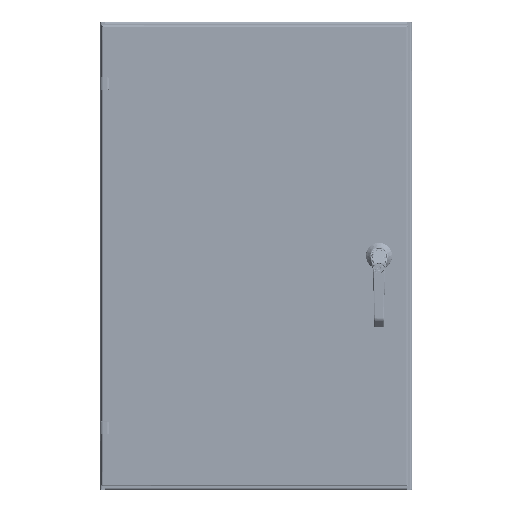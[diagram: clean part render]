
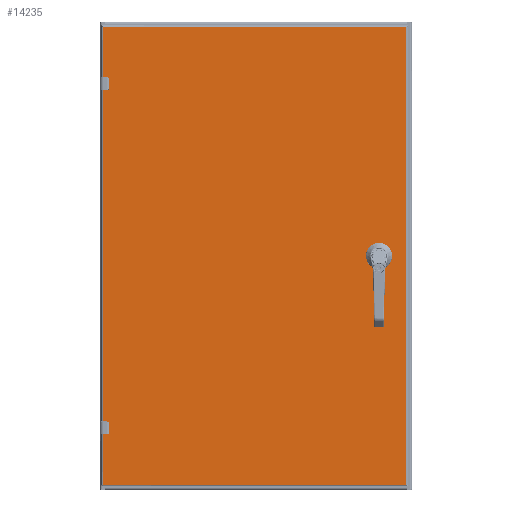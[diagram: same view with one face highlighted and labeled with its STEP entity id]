
A CAD part, top view. The second image highlights one B-rep face of the part: STEP entity #14235.
In plain terms, the highlighted planar face has unit normal (0, 0, 1).
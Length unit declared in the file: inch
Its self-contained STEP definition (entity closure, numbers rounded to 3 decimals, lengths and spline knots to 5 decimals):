
#11370=CARTESIAN_POINT('',(9.5625,-1.094,0.));
#11371=DIRECTION('',(0.,0.,1.));
#11372=DIRECTION('',(-1.,0.,0.));
#11373=AXIS2_PLACEMENT_3D('',#11370,#11371,#11372);
#11378=CARTESIAN_POINT('',(9.5625,-1.094,0.));
#11379=DIRECTION('',(0.,0.,1.));
#11380=DIRECTION('',(1.,0.,0.));
#11381=AXIS2_PLACEMENT_3D('',#11378,#11379,#11380);
#11386=DIRECTION('',(1.,0.,0.));
#11387=VECTOR('',#11386,0.39715);
#11388=CARTESIAN_POINT('',(9.36392,0.396,0.));
#11389=LINE('',#11388,#11387);
#11393=CARTESIAN_POINT('',(9.5625,0.,0.));
#11394=DIRECTION('',(0.,0.,1.));
#11395=DIRECTION('',(-0.448,0.894,0.));
#11396=AXIS2_PLACEMENT_3D('',#11393,#11394,#11395);
#11401=DIRECTION('',(0.,1.,0.));
#11402=VECTOR('',#11401,0.39715);
#11403=CARTESIAN_POINT('',(9.1665,-0.19858,0.));
#11404=LINE('',#11403,#11402);
#11408=CARTESIAN_POINT('',(9.5625,0.,0.));
#11409=DIRECTION('',(0.,0.,1.));
#11410=DIRECTION('',(-0.894,-0.448,0.));
#11411=AXIS2_PLACEMENT_3D('',#11408,#11409,#11410);
#11416=DIRECTION('',(-1.,0.,0.));
#11417=VECTOR('',#11416,0.39715);
#11418=CARTESIAN_POINT('',(9.76108,-0.396,0.));
#11419=LINE('',#11418,#11417);
#11423=CARTESIAN_POINT('',(9.5625,0.,0.));
#11424=DIRECTION('',(0.,0.,1.));
#11425=DIRECTION('',(0.448,-0.894,0.));
#11426=AXIS2_PLACEMENT_3D('',#11423,#11424,#11425);
#11431=DIRECTION('',(0.,-1.,0.));
#11432=VECTOR('',#11431,0.39715);
#11433=CARTESIAN_POINT('',(9.9585,0.19858,0.));
#11434=LINE('',#11433,#11432);
#11438=CARTESIAN_POINT('',(9.5625,0.,0.));
#11439=DIRECTION('',(0.,0.,1.));
#11440=DIRECTION('',(0.894,0.448,0.));
#11441=AXIS2_PLACEMENT_3D('',#11438,#11439,#11440);
#11446=DIRECTION('',(1.,0.,0.));
#11447=VECTOR('',#11446,0.339);
#11448=CARTESIAN_POINT('',(-11.6675,-13.595,0.));
#11449=LINE('',#11448,#11447);
#11453=DIRECTION('',(0.,-1.,0.));
#11454=VECTOR('',#11453,0.63);
#11455=CARTESIAN_POINT('',(-11.2985,-12.935,0.));
#11456=LINE('',#11455,#11454);
#11460=DIRECTION('',(1.,0.,0.));
#11461=VECTOR('',#11460,0.339);
#11462=CARTESIAN_POINT('',(-11.6675,-12.905,0.));
#11463=LINE('',#11462,#11461);
#11467=DIRECTION('',(1.,0.,0.));
#11468=VECTOR('',#11467,0.339);
#11469=CARTESIAN_POINT('',(-11.6675,12.905,0.));
#11470=LINE('',#11469,#11468);
#11474=DIRECTION('',(0.,-1.,0.));
#11475=VECTOR('',#11474,0.63);
#11476=CARTESIAN_POINT('',(-11.2985,13.565,0.));
#11477=LINE('',#11476,#11475);
#11481=DIRECTION('',(1.,0.,0.));
#11482=VECTOR('',#11481,0.339);
#11483=CARTESIAN_POINT('',(-11.6675,13.595,0.));
#11484=LINE('',#11483,#11482);
#11981=DIRECTION('',(0.,1.,0.));
#11982=VECTOR('',#11981,25.81);
#11983=CARTESIAN_POINT('',(-11.6675,-12.905,0.));
#11984=LINE('',#11983,#11982);
#12008=DIRECTION('',(0.,1.,0.));
#12009=VECTOR('',#12008,4.01);
#12010=CARTESIAN_POINT('',(-11.6675,13.595,0.));
#12011=LINE('',#12010,#12009);
#12065=DIRECTION('',(0.,1.,0.));
#12066=VECTOR('',#12065,4.01);
#12067=CARTESIAN_POINT('',(-11.6675,-17.605,0.));
#12068=LINE('',#12067,#12066);
#12728=CARTESIAN_POINT('',(-11.3285,-13.565,0.));
#12729=DIRECTION('',(0.,0.,-1.));
#12730=DIRECTION('',(1.,0.,0.));
#12731=AXIS2_PLACEMENT_3D('',#12728,#12729,#12730);
#12758=CARTESIAN_POINT('',(-11.3285,-12.935,0.));
#12759=DIRECTION('',(0.,0.,-1.));
#12760=DIRECTION('',(0.,1.,0.));
#12761=AXIS2_PLACEMENT_3D('',#12758,#12759,#12760);
#12862=CARTESIAN_POINT('',(-11.3285,13.565,0.));
#12863=DIRECTION('',(0.,0.,-1.));
#12864=DIRECTION('',(0.,1.,0.));
#12865=AXIS2_PLACEMENT_3D('',#12862,#12863,#12864);
#12892=CARTESIAN_POINT('',(-11.3285,12.935,0.));
#12893=DIRECTION('',(0.,0.,-1.));
#12894=DIRECTION('',(1.,0.,0.));
#12895=AXIS2_PLACEMENT_3D('',#12892,#12893,#12894);
#13507=DIRECTION('',(-1.,0.,0.));
#13508=VECTOR('',#13507,23.335);
#13509=CARTESIAN_POINT('',(11.6675,-17.605,0.));
#13510=LINE('',#13509,#13508);
#13559=DIRECTION('',(0.,-1.,0.));
#13560=VECTOR('',#13559,35.21);
#13561=CARTESIAN_POINT('',(11.6675,17.605,0.));
#13562=LINE('',#13561,#13560);
#13702=DIRECTION('',(1.,0.,0.));
#13703=VECTOR('',#13702,23.335);
#13704=CARTESIAN_POINT('',(-11.6675,17.605,0.));
#13705=LINE('',#13704,#13703);
#13796=CARTESIAN_POINT('',(11.6675,17.605,0.));
#13797=CARTESIAN_POINT('',(11.6675,-17.605,0.));
#13798=VERTEX_POINT('',#13796);
#13799=VERTEX_POINT('',#13797);
#13884=CARTESIAN_POINT('',(9.4375,-1.094,0.));
#13885=CARTESIAN_POINT('',(9.6875,-1.094,0.));
#13886=VERTEX_POINT('',#13884);
#13887=VERTEX_POINT('',#13885);
#13888=CARTESIAN_POINT('',(9.36392,0.396,0.));
#13889=CARTESIAN_POINT('',(9.76108,0.396,0.));
#13890=VERTEX_POINT('',#13888);
#13891=VERTEX_POINT('',#13889);
#13892=CARTESIAN_POINT('',(9.9585,0.19858,0.));
#13893=VERTEX_POINT('',#13892);
#13894=CARTESIAN_POINT('',(9.9585,-0.19858,0.));
#13895=VERTEX_POINT('',#13894);
#13896=CARTESIAN_POINT('',(9.76108,-0.396,0.));
#13897=VERTEX_POINT('',#13896);
#13898=CARTESIAN_POINT('',(9.36392,-0.396,0.));
#13899=VERTEX_POINT('',#13898);
#13900=CARTESIAN_POINT('',(9.1665,-0.19858,0.));
#13901=VERTEX_POINT('',#13900);
#13902=CARTESIAN_POINT('',(9.1665,0.19858,0.));
#13903=VERTEX_POINT('',#13902);
#13933=CARTESIAN_POINT('',(-11.6675,17.605,0.));
#13935=VERTEX_POINT('',#13933);
#13940=CARTESIAN_POINT('',(-11.6675,-17.605,0.));
#13942=VERTEX_POINT('',#13940);
#14076=CARTESIAN_POINT('',(-11.6675,12.905,0.));
#14078=VERTEX_POINT('',#14076);
#14080=CARTESIAN_POINT('',(-11.6675,13.595,0.));
#14082=VERTEX_POINT('',#14080);
#14092=CARTESIAN_POINT('',(-11.6675,-13.595,0.));
#14094=VERTEX_POINT('',#14092);
#14096=CARTESIAN_POINT('',(-11.6675,-12.905,0.));
#14098=VERTEX_POINT('',#14096);
#14116=CARTESIAN_POINT('',(-11.2985,12.935,0.));
#14118=VERTEX_POINT('',#14116);
#14120=CARTESIAN_POINT('',(-11.3285,12.905,0.));
#14122=VERTEX_POINT('',#14120);
#14124=CARTESIAN_POINT('',(-11.3285,13.595,0.));
#14126=VERTEX_POINT('',#14124);
#14128=CARTESIAN_POINT('',(-11.2985,13.565,0.));
#14130=VERTEX_POINT('',#14128);
#14140=CARTESIAN_POINT('',(-11.2985,-13.565,0.));
#14142=VERTEX_POINT('',#14140);
#14144=CARTESIAN_POINT('',(-11.3285,-13.595,0.));
#14146=VERTEX_POINT('',#14144);
#14148=CARTESIAN_POINT('',(-11.3285,-12.905,0.));
#14150=VERTEX_POINT('',#14148);
#14152=CARTESIAN_POINT('',(-11.2985,-12.935,0.));
#14154=VERTEX_POINT('',#14152);
#14172=CARTESIAN_POINT('',(0.,0.,0.));
#14173=DIRECTION('',(0.,0.,-1.));
#14174=DIRECTION('',(1.,0.,0.));
#14175=AXIS2_PLACEMENT_3D('',#14172,#14173,#14174);
#14176=PLANE('',#14175);
#14178=ORIENTED_EDGE('',*,*,#14177,.T.);
#14180=ORIENTED_EDGE('',*,*,#14179,.T.);
#14182=ORIENTED_EDGE('',*,*,#14181,.T.);
#14184=ORIENTED_EDGE('',*,*,#14183,.F.);
#14186=ORIENTED_EDGE('',*,*,#14185,.F.);
#14188=ORIENTED_EDGE('',*,*,#14187,.F.);
#14190=ORIENTED_EDGE('',*,*,#14189,.F.);
#14192=ORIENTED_EDGE('',*,*,#14191,.T.);
#14194=ORIENTED_EDGE('',*,*,#14193,.T.);
#14196=ORIENTED_EDGE('',*,*,#14195,.F.);
#14198=ORIENTED_EDGE('',*,*,#14197,.F.);
#14200=ORIENTED_EDGE('',*,*,#14199,.F.);
#14202=ORIENTED_EDGE('',*,*,#14201,.F.);
#14204=ORIENTED_EDGE('',*,*,#14203,.T.);
#14206=ORIENTED_EDGE('',*,*,#14205,.T.);
#14208=ORIENTED_EDGE('',*,*,#14207,.T.);
#14209=EDGE_LOOP('',(#14178,#14180,#14182,#14184,#14186,#14188,#14190,#14192,
#14194,#14196,#14198,#14200,#14202,#14204,#14206,#14208));
#14210=FACE_OUTER_BOUND('',#14209,.F.);
#14212=ORIENTED_EDGE('',*,*,#14211,.F.);
#14214=ORIENTED_EDGE('',*,*,#14213,.T.);
#14216=ORIENTED_EDGE('',*,*,#14215,.F.);
#14218=ORIENTED_EDGE('',*,*,#14217,.T.);
#14220=ORIENTED_EDGE('',*,*,#14219,.F.);
#14222=ORIENTED_EDGE('',*,*,#14221,.T.);
#14224=ORIENTED_EDGE('',*,*,#14223,.F.);
#14226=ORIENTED_EDGE('',*,*,#14225,.T.);
#14227=EDGE_LOOP('',(#14212,#14214,#14216,#14218,#14220,#14222,#14224,#14226));
#14228=FACE_BOUND('',#14227,.F.);
#14230=ORIENTED_EDGE('',*,*,#14229,.T.);
#14232=ORIENTED_EDGE('',*,*,#14231,.T.);
#14233=EDGE_LOOP('',(#14230,#14232));
#14234=FACE_BOUND('',#14233,.F.);
#11374=CIRCLE('',#11373,0.125);
#11382=CIRCLE('',#11381,0.125);
#11397=CIRCLE('',#11396,0.443);
#11412=CIRCLE('',#11411,0.443);
#11427=CIRCLE('',#11426,0.443);
#11442=CIRCLE('',#11441,0.443);
#12732=CIRCLE('',#12731,0.03);
#12762=CIRCLE('',#12761,0.03);
#12866=CIRCLE('',#12865,0.03);
#12896=CIRCLE('',#12895,0.03);
#14177=EDGE_CURVE('',#13799,#13942,#13510,.T.);
#14179=EDGE_CURVE('',#13942,#14094,#12068,.T.);
#14181=EDGE_CURVE('',#14094,#14146,#11449,.T.);
#14183=EDGE_CURVE('',#14142,#14146,#12732,.T.);
#14185=EDGE_CURVE('',#14154,#14142,#11456,.T.);
#14187=EDGE_CURVE('',#14150,#14154,#12762,.T.);
#14189=EDGE_CURVE('',#14098,#14150,#11463,.T.);
#14191=EDGE_CURVE('',#14098,#14078,#11984,.T.);
#14193=EDGE_CURVE('',#14078,#14122,#11470,.T.);
#14195=EDGE_CURVE('',#14118,#14122,#12896,.T.);
#14197=EDGE_CURVE('',#14130,#14118,#11477,.T.);
#14199=EDGE_CURVE('',#14126,#14130,#12866,.T.);
#14201=EDGE_CURVE('',#14082,#14126,#11484,.T.);
#14203=EDGE_CURVE('',#14082,#13935,#12011,.T.);
#14205=EDGE_CURVE('',#13935,#13798,#13705,.T.);
#14207=EDGE_CURVE('',#13798,#13799,#13562,.T.);
#14211=EDGE_CURVE('',#13890,#13891,#11389,.T.);
#14213=EDGE_CURVE('',#13890,#13903,#11397,.T.);
#14215=EDGE_CURVE('',#13901,#13903,#11404,.T.);
#14217=EDGE_CURVE('',#13901,#13899,#11412,.T.);
#14219=EDGE_CURVE('',#13897,#13899,#11419,.T.);
#14221=EDGE_CURVE('',#13897,#13895,#11427,.T.);
#14223=EDGE_CURVE('',#13893,#13895,#11434,.T.);
#14225=EDGE_CURVE('',#13893,#13891,#11442,.T.);
#14229=EDGE_CURVE('',#13886,#13887,#11374,.T.);
#14231=EDGE_CURVE('',#13887,#13886,#11382,.T.);
#14235=ADVANCED_FACE('',(#14210,#14228,#14234),#14176,.F.);
